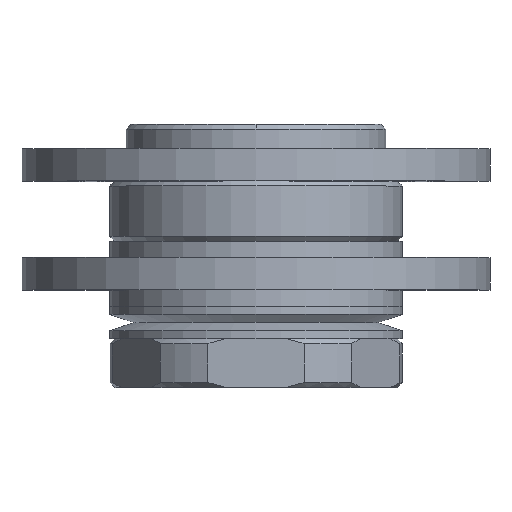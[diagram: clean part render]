
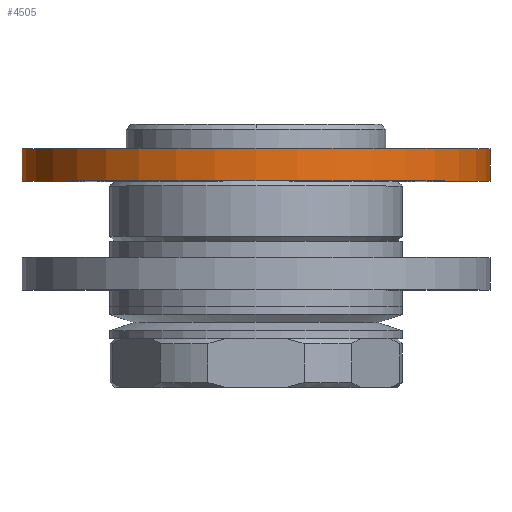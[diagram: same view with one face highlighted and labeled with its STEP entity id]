
A CAD part, top view. The second image highlights one B-rep face of the part: STEP entity #4505.
In plain terms, the highlighted cylindrical face has radius 14.4 mm (diameter 28.8 mm), a partial arc.
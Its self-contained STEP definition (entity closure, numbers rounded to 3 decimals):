
#70 = DIRECTION ( 'NONE',  ( -1., 0., 0. ) ) ;
#108 = CYLINDRICAL_SURFACE ( 'NONE', #3248, 14.4 ) ;
#114 = LINE ( 'NONE', #143, #3787 ) ;
#123 = DIRECTION ( 'NONE',  ( 0., 1., 0. ) ) ;
#143 = CARTESIAN_POINT ( 'NONE',  ( 28.8, 0., -14.4 ) ) ;
#549 = DIRECTION ( 'NONE',  ( 1., 0., 0. ) ) ;
#1234 = CARTESIAN_POINT ( 'NONE',  ( 0., 0., -14.4 ) ) ;
#1264 = AXIS2_PLACEMENT_3D ( 'NONE', #5569, #2988, #3013 ) ;
#1362 = VECTOR ( 'NONE', #4253, 1000. ) ;
#1371 = CARTESIAN_POINT ( 'NONE',  ( 0., 2., -14.4 ) ) ;
#1407 = EDGE_LOOP ( 'NONE', ( #4825, #1865, #2704, #5150 ) ) ;
#1542 = CIRCLE ( 'NONE', #1264, 14.4 ) ;
#1563 = FACE_OUTER_BOUND ( 'NONE', #1407, .T. ) ;
#1767 = VERTEX_POINT ( 'NONE', #4399 ) ;
#1865 = ORIENTED_EDGE ( 'NONE', *, *, #2044, .T. ) ;
#1884 = DIRECTION ( 'NONE',  ( 0., -1., 0. ) ) ;
#2044 = EDGE_CURVE ( 'NONE', #3414, #5068, #2553, .T. ) ;
#2553 = LINE ( 'NONE', #5149, #1362 ) ;
#2704 = ORIENTED_EDGE ( 'NONE', *, *, #3728, .T. ) ;
#2988 = DIRECTION ( 'NONE',  ( 0., 1., 0. ) ) ;
#3013 = DIRECTION ( 'NONE',  ( -1., 0., 0. ) ) ;
#3248 = AXIS2_PLACEMENT_3D ( 'NONE', #5054, #3666, #549 ) ;
#3358 = CARTESIAN_POINT ( 'NONE',  ( 28.8, 2., -14.4 ) ) ;
#3414 = VERTEX_POINT ( 'NONE', #1371 ) ;
#3452 = CARTESIAN_POINT ( 'NONE',  ( 14.4, 2., -14.4 ) ) ;
#3666 = DIRECTION ( 'NONE',  ( 0., -1., 0. ) ) ;
#3672 = VERTEX_POINT ( 'NONE', #3358 ) ;
#3728 = EDGE_CURVE ( 'NONE', #5068, #1767, #1542, .T. ) ;
#3787 = VECTOR ( 'NONE', #1884, 1000. ) ;
#3864 = CIRCLE ( 'NONE', #4425, 14.4 ) ;
#4253 = DIRECTION ( 'NONE',  ( 0., -1., 0. ) ) ;
#4325 = EDGE_CURVE ( 'NONE', #3672, #1767, #114, .T. ) ;
#4399 = CARTESIAN_POINT ( 'NONE',  ( 28.8, 0., -14.4 ) ) ;
#4425 = AXIS2_PLACEMENT_3D ( 'NONE', #3452, #123, #70 ) ;
#4505 = ADVANCED_FACE ( 'NONE', ( #1563 ), #108, .T. ) ;
#4825 = ORIENTED_EDGE ( 'NONE', *, *, #5247, .F. ) ;
#5054 = CARTESIAN_POINT ( 'NONE',  ( 14.4, 0., -14.4 ) ) ;
#5068 = VERTEX_POINT ( 'NONE', #1234 ) ;
#5149 = CARTESIAN_POINT ( 'NONE',  ( 0., 0., -14.4 ) ) ;
#5150 = ORIENTED_EDGE ( 'NONE', *, *, #4325, .F. ) ;
#5247 = EDGE_CURVE ( 'NONE', #3414, #3672, #3864, .T. ) ;
#5569 = CARTESIAN_POINT ( 'NONE',  ( 14.4, 0., -14.4 ) ) ;
